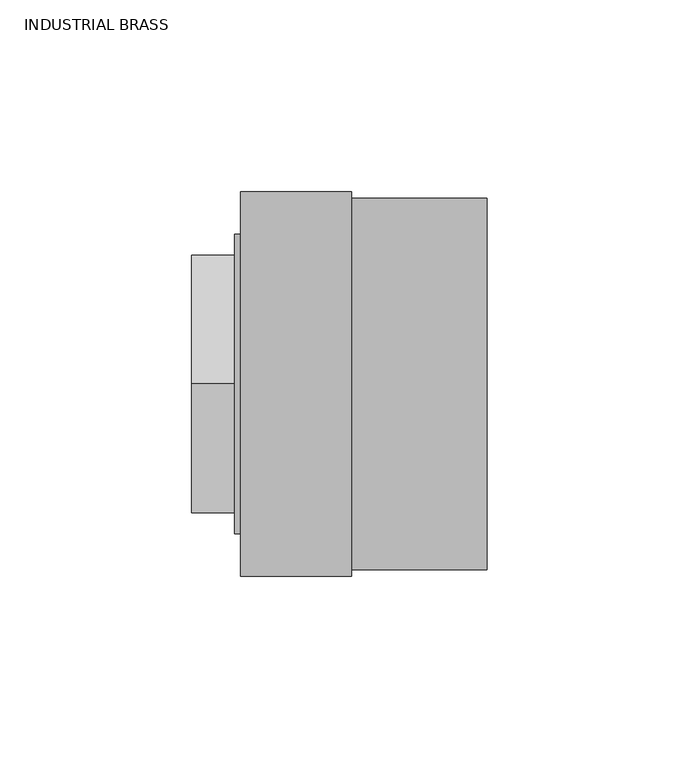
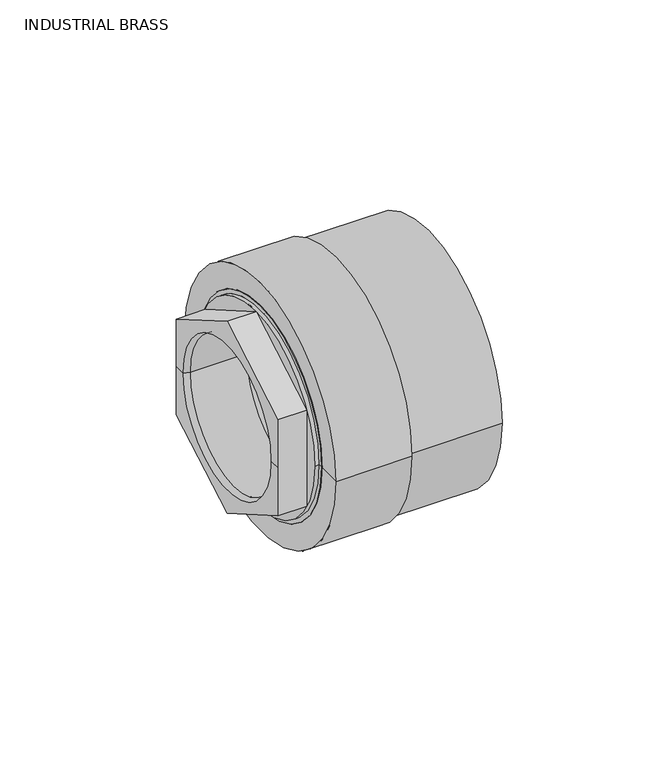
"""IFC4 building model written with IfcOpenShell, lengths in millimetres: valve geometry, Aquatherm - Transition Piece - F HEX : INDUSTRIAL BRASS."""

import ifcopenshell
import ifcopenshell.guid

model = None  # the IFC model being written
_history = None  # IfcOwnerHistory: only IFC2X3 demands one
_inside = {}  # id of a spatial element -> (the spatial element, [elements in it])
_under = {}  # id of a project, library or spatial element -> (it, [spatial elements below it])
_declared = {}  # id of a project -> (the project, [libraries it declares])
_typed = {}  # id of a type object -> (the type object, [elements of that type])
_made_of = {}  # id of a material, layer set ... -> (it, [elements and type objects made of it])


def new_model(schema):
    """Start an empty IFC model of exactly this schema.

    Asked for "IFC4X3", IfcOpenShell would pick the latest addendum, in which some entities
    have other attributes; the version numbers below select the first issue.
    IFC2X3 requires an IfcOwnerHistory on every rooted entity: one is made here for all.
    """
    global model, _history
    if schema == "IFC4X3":
        model = ifcopenshell.file(schema_version=(4, 3, 0, 0))
    else:
        model = ifcopenshell.file(schema=schema)
    _inside.clear()
    _under.clear()
    _declared.clear()
    _typed.clear()
    _made_of.clear()
    _history = None
    if model.schema == "IFC2X3":
        org = make("IfcOrganization", Name="unknown")
        user = make(
            "IfcPersonAndOrganization",
            ThePerson=make("IfcPerson", FamilyName="unknown"),
            TheOrganization=org,
        )
        app = make(
            "IfcApplication",
            ApplicationDeveloper=org,
            Version="unknown",
            ApplicationFullName="unknown",
            ApplicationIdentifier="unknown",
        )
        _history = make(
            "IfcOwnerHistory",
            OwningUser=user,
            OwningApplication=app,
            ChangeAction="ADDED",
            CreationDate=0,
        )
    return model


def make(cls, **values):
    """One entity of the class cls with the attributes given. An attribute that is None is left unset."""
    return model.create_entity(
        cls, **{name: value for name, value in values.items() if value is not None}
    )


def rooted(cls, **values):
    """An entity with a GlobalId (a new one), such as an element, a storey or a relation."""
    return make(cls, GlobalId=ifcopenshell.guid.new(), OwnerHistory=_history, **values)


def si_unit(unit_type, name, prefix=None):
    """IfcSIUnit, for example si_unit("LENGTHUNIT", "METRE", prefix="MILLI")."""
    return make("IfcSIUnit", UnitType=unit_type, Prefix=prefix, Name=name)


def assignment(units):
    """IfcUnitAssignment: the units of a project."""
    return None if units is None else make("IfcUnitAssignment", Units=units)


def point(xyz):
    """IfcCartesianPoint."""
    return None if xyz is None else make("IfcCartesianPoint", Coordinates=xyz)


def direction(xyz):
    """IfcDirection."""
    return None if xyz is None else make("IfcDirection", DirectionRatios=xyz)


def frame(location, z_axis=None, x_axis=None):
    """IfcAxis2Placement3D, a coordinate frame: its origin and axes. An axis left out is left unset."""
    return make(
        "IfcAxis2Placement3D",
        Location=point(location),
        Axis=direction(z_axis),
        RefDirection=direction(x_axis),
    )


def origin():
    """The frame at (0, 0, 0) with its axes left unset."""
    return frame((0.0, 0.0, 0.0))


def place(relative_to, where):
    """IfcLocalPlacement: puts the frame where relative to a parent placement (None: the world)."""
    return make(
        "IfcLocalPlacement", PlacementRelTo=relative_to, RelativePlacement=where
    )


def context(
    kind, dimensions, precision=None, world=None, true_north=None, identifier=None
):
    """IfcGeometricRepresentationContext, for example the 3D "Model" context."""
    return make(
        "IfcGeometricRepresentationContext",
        ContextIdentifier=identifier,
        ContextType=kind,
        CoordinateSpaceDimension=dimensions,
        Precision=precision,
        WorldCoordinateSystem=world,
        TrueNorth=true_north,
    )


def project(units=None, contexts=None):
    """IfcProject with its units and contexts."""
    return rooted(
        "IfcProject",
        Name="project",
        RepresentationContexts=contexts,
        UnitsInContext=assignment(units),
    )


def spatial(cls, under=None, at=None, **own):
    """A site, building, storey or space (cls), placed at a placement, below another one or the project."""
    s = rooted(cls, ObjectPlacement=at, **own)
    if under is not None:
        _under.setdefault(under.id(), (under, []))[1].append(s)
    return s


def polyline(points):
    """IfcPolyline through the points."""
    return make("IfcPolyline", Points=[point(p) for p in points])


def circle_curve(where, radius):
    """IfcCircle in the frame where."""
    return make("IfcCircle", Position=where, Radius=radius)


def shape(context_of_items, identifier, shape_type, items):
    """IfcShapeRepresentation: the items that make up one representation, for example the "Body"."""
    return make(
        "IfcShapeRepresentation",
        ContextOfItems=context_of_items,
        RepresentationIdentifier=identifier,
        RepresentationType=shape_type,
        Items=items,
    )


def source(mapping_origin, context_of_items, identifier, shape_type, items):
    """IfcRepresentationMap: a shape defined once, which mapped items show again and again."""
    return make(
        "IfcRepresentationMap",
        MappingOrigin=mapping_origin,
        MappedRepresentation=shape(context_of_items, identifier, shape_type, items),
    )


def transform(
    local_origin,
    x_axis=None,
    y_axis=None,
    z_axis=None,
    scale=None,
    scale2=None,
    scale3=None,
    uniform=True,
):
    """IfcCartesianTransformationOperator3D, or its non-uniform kind. x_axis, y_axis, z_axis: its Axis1, 2, 3."""
    if uniform:
        return make(
            "IfcCartesianTransformationOperator3D",
            Axis1=direction(x_axis),
            Axis2=direction(y_axis),
            LocalOrigin=point(local_origin),
            Scale=scale,
            Axis3=direction(z_axis),
        )
    return make(
        "IfcCartesianTransformationOperator3DnonUniform",
        Axis1=direction(x_axis),
        Axis2=direction(y_axis),
        LocalOrigin=point(local_origin),
        Scale=scale,
        Axis3=direction(z_axis),
        Scale2=scale2,
        Scale3=scale3,
    )


def mapped(mapping_source, mapping_target):
    """IfcMappedItem: shows the shape of a source again, moved by a transform."""
    return make(
        "IfcMappedItem", MappingSource=mapping_source, MappingTarget=mapping_target
    )


def made_of(thing, what):
    """Note that an element or type object is made of a material, layer set ...; save() writes the relation."""
    if what is not None:
        _made_of.setdefault(what.id(), (what, []))[1].append(thing)
    return thing


def element(
    cls,
    number,
    at=None,
    inside=None,
    cuts=None,
    type_object=None,
    material=None,
    context=None,
    identifier="Body",
    shape_type=None,
    held_by="IfcProductDefinitionShape",
    body=None,
    shapes=None,
    **own,
):
    """One element of the class cls, such as IfcWall. Its Tag is "e" and its number.

    at: its placement. inside: the storey or other place that contains it. cuts: it is an
    opening in that element (IfcRelVoidsElement). A single representation is given by context,
    identifier, shape_type and body (its items); several are given by shapes. held_by: the class
    of the entity that holds the representations. save() writes the other relations.
    """
    e = rooted(cls, Tag="e%d" % number, ObjectPlacement=at, **own)
    if body is not None:
        shapes = [shape(context, identifier, shape_type, body)]
    if shapes is not None:
        e.Representation = make(held_by, Representations=shapes)
    if inside is not None:
        _inside.setdefault(inside.id(), (inside, []))[1].append(e)
    if cuts is not None:
        rooted(
            "IfcRelVoidsElement", RelatingBuildingElement=cuts, RelatedOpeningElement=e
        )
    if type_object is not None:
        _typed.setdefault(type_object.id(), (type_object, []))[1].append(e)
    return made_of(e, material)


def aggregate(whole, parts):
    """IfcRelAggregates: a whole, such as a stair, and the parts it consists of."""
    return rooted("IfcRelAggregates", RelatingObject=whole, RelatedObjects=parts)


def save(model, path):
    """Write the relations noted so far, then the file.

    IfcRelAggregates (storeys below a building ...), IfcRelContainedInSpatialStructure (elements
    in a storey), IfcRelDefinesByType, IfcRelAssociatesMaterial and IfcRelDeclares: one each for
    every whole, place, type object, material and project.
    """
    for whole, parts in _under.values():
        aggregate(whole, parts)
    for where, things in _inside.values():
        rooted(
            "IfcRelContainedInSpatialStructure",
            RelatedElements=things,
            RelatingStructure=where,
        )
    for kind, things in _typed.values():
        rooted("IfcRelDefinesByType", RelatedObjects=things, RelatingType=kind)
    for what, things in _made_of.values():
        rooted("IfcRelAssociatesMaterial", RelatedObjects=things, RelatingMaterial=what)
    for by, libraries in _declared.values():
        rooted("IfcRelDeclares", RelatingContext=by, RelatedDefinitions=libraries)
    model.write(path)


def plane_surface(at):
    """IfcPlane: the flat surface through the origin of the frame at, square to its z axis."""
    return make("IfcPlane", Position=at)


def cylinder_surface(at, radius):
    """IfcCylindricalSurface: all points at the distance radius from the z axis of the frame at."""
    return make("IfcCylindricalSurface", Position=at, Radius=radius)


def revolved_surface(curve, axis_point, axis_direction):
    """IfcSurfaceOfRevolution: the curve turned about the line through axis_point along axis_direction."""
    return make(
        "IfcSurfaceOfRevolution",
        SweptCurve=make("IfcArbitraryOpenProfileDef", ProfileType="CURVE", Curve=curve),
        AxisPosition=make("IfcAxis1Placement", Location=point(axis_point), Axis=direction(axis_direction)),
    )


def advanced_brep(points, edges, surfaces, faces):
    """IfcAdvancedBrep: a solid bounded by faces that lie on surfaces and meet in shared edges.

    An edge is (start, end): straight between two places in points (the first is 0);
    or (start, end, curve); or (start, end, curve, False) where it runs against its curve.
    A face is (place in surfaces, loops), or (place, loops, False) where it looks against
    its surface's normal. A loop lists edges by number (the first is 1), with a minus sign
    where the edge is run from its end to its start. The first loop is the outer one.
    """
    corners = [point(p) for p in points]
    vertices = [make("IfcVertexPoint", VertexGeometry=c) for c in corners]
    made = []
    for start, end, *more in edges:
        made.append(
            make(
                "IfcEdgeCurve",
                EdgeStart=vertices[start],
                EdgeEnd=vertices[end],
                EdgeGeometry=more[0] if more else make("IfcPolyline", Points=[corners[start], corners[end]]),
                SameSense=more[1] if len(more) > 1 else True,
            )
        )
    hull = []
    for where, loops, *sense in faces:
        bounds = []
        for j, loop in enumerate(loops):
            ring = [make("IfcOrientedEdge", EdgeElement=made[abs(k) - 1], Orientation=k > 0) for k in loop]
            bounds.append(
                make(
                    "IfcFaceOuterBound" if j == 0 else "IfcFaceBound",
                    Bound=make("IfcEdgeLoop", EdgeList=ring),
                    Orientation=True,
                )
            )
        hull.append(make("IfcAdvancedFace", Bounds=bounds, FaceSurface=surfaces[where], SameSense=sense[0] if sense else True))
    return make("IfcAdvancedBrep", Outer=make("IfcClosedShell", CfsFaces=hull))


def industrial_brass_6267ebcc(model_context):
    return source(origin(), model_context, "Body", "AdvancedBrep", [
        advanced_brep(
        [(11.1125, -28.575, 0.0), (11.1125, 28.575, 0.0), (-10.1203125, 28.575, 0.0), (-10.1203125, -28.575, 0.0), (11.1125, -29.36875, 0.0), (11.1125, 29.36875, 0.0), (14.2875, -29.36875, 0.0), (14.2875, 29.36875, 0.0), (14.2875, -25.4, 0.0), (14.2875, 25.4, 0.0), (17.4625, -25.4, 0.0), (17.4625, 25.4, 0.0), (17.4625, -40.64, 0.0), (17.4625, 40.64, 0.0), (0.0, -40.64, 0.0), (0.0, 40.64, 0.0), (-12.7, -29.36875, 0.0), (-12.7, 29.36875, 0.0), (-12.7, 33.528, 0.0), (-12.7, 33.528, -19.3573998), (-12.7, 0.0, -38.7147997), (-12.7, -33.528, -19.3573998), (-12.7, -33.528, 0.0), (-12.7, -33.528, 19.3573998), (-12.7, 0.0, 38.7147997), (-12.7, 33.528, 19.3573998), (0.0, -38.989, 0.0), (0.0, 38.989, 0.0), (-1.5875, -38.989, 0.0), (-1.5875, 38.989, 0.0), (-1.5875, 0.0, -38.7147997), (-1.5875, 33.528, -19.3573998), (-1.5875, 33.528, 19.3573998), (-1.5875, 0.0, 38.7147997), (-1.5875, -33.528, 19.3573998), (-1.5875, -33.528, -19.3573998)],
        [
            (0, 1, circle_curve(frame((11.1125, 0.0, 0.0), z_axis=(1.0, 0.0, 0.0), x_axis=(0.0, 1.0, 0.0)), 28.575)),
            (1, 2),
            (2, 3, circle_curve(frame((-10.1203125, 0.0, 0.0), z_axis=(-1.0, 0.0, 0.0), x_axis=(0.0, 1.0, 0.0)), 28.575)),
            (3, 0),
            (1, 0, circle_curve(frame((11.1125, 0.0, 0.0), z_axis=(1.0, 0.0, 0.0), x_axis=(0.0, 1.0, 0.0)), 28.575)),
            (3, 2, circle_curve(frame((-10.1203125, 0.0, 0.0), z_axis=(-1.0, 0.0, 0.0), x_axis=(0.0, 1.0, 0.0)), 28.575)),
            (0, 4),
            (4, 5, circle_curve(frame((11.1125, 0.0, 0.0), z_axis=(1.0, 0.0, 0.0), x_axis=(0.0, 1.0, 0.0)), 29.36875)),
            (5, 1),
            (5, 4, circle_curve(frame((11.1125, 0.0, 0.0), z_axis=(1.0, 0.0, 0.0), x_axis=(0.0, 1.0, 0.0)), 29.36875)),
            (4, 6),
            (6, 7, circle_curve(frame((14.2875, 0.0, 0.0), z_axis=(1.0, 0.0, 0.0), x_axis=(0.0, 1.0, 0.0)), 29.36875)),
            (7, 5),
            (7, 6, circle_curve(frame((14.2875, 0.0, 0.0), z_axis=(1.0, 0.0, 0.0), x_axis=(0.0, 1.0, 0.0)), 29.36875)),
            (6, 8),
            (8, 9, circle_curve(frame((14.2875, 0.0, 0.0), z_axis=(1.0, 0.0, 0.0), x_axis=(0.0, 1.0, 0.0)), 25.4)),
            (9, 7),
            (9, 8, circle_curve(frame((14.2875, 0.0, 0.0), z_axis=(1.0, 0.0, 0.0), x_axis=(0.0, 1.0, 0.0)), 25.4)),
            (8, 10),
            (10, 11, circle_curve(frame((17.4625, 0.0, 0.0), z_axis=(1.0, 0.0, 0.0), x_axis=(0.0, 1.0, 0.0)), 25.4)),
            (11, 9),
            (11, 10, circle_curve(frame((17.4625, 0.0, 0.0), z_axis=(1.0, 0.0, 0.0), x_axis=(0.0, 1.0, 0.0)), 25.4)),
            (10, 12),
            (12, 13, circle_curve(frame((17.4625, 0.0, 0.0), z_axis=(1.0, 0.0, 0.0), x_axis=(0.0, 1.0, 0.0)), 40.64)),
            (13, 11),
            (13, 12, circle_curve(frame((17.4625, 0.0, 0.0), z_axis=(1.0, 0.0, 0.0), x_axis=(0.0, 1.0, 0.0)), 40.64)),
            (12, 14),
            (14, 15, circle_curve(frame((0.0, 0.0, 0.0), z_axis=(1.0, 0.0, 0.0), x_axis=(0.0, 1.0, 0.0)), 40.64)),
            (15, 13),
            (15, 14, circle_curve(frame((0.0, 0.0, 0.0), z_axis=(1.0, 0.0, 0.0), x_axis=(0.0, 1.0, 0.0)), 40.64)),
            (16, 17, circle_curve(frame((-12.7, 0.0, 0.0), z_axis=(1.0, 0.0, 0.0), x_axis=(0.0, 1.0, 0.0)), 29.36875)),
            (17, 18),
            (18, 19),
            (19, 20),
            (20, 21),
            (21, 22),
            (22, 16),
            (17, 16, circle_curve(frame((-12.7, 0.0, 0.0), z_axis=(1.0, 0.0, 0.0), x_axis=(0.0, 1.0, 0.0)), 29.36875)),
            (22, 23),
            (23, 24),
            (24, 25),
            (25, 18),
            (2, 17),
            (16, 3),
            (14, 26),
            (26, 27, circle_curve(frame((0.0, 0.0, 0.0), z_axis=(1.0, 0.0, 0.0), x_axis=(0.0, 1.0, 0.0)), 38.989)),
            (27, 15),
            (27, 26, circle_curve(frame((0.0, 0.0, 0.0), z_axis=(1.0, 0.0, 0.0), x_axis=(0.0, 1.0, 0.0)), 38.989)),
            (26, 28),
            (28, 29, circle_curve(frame((-1.5875, 0.0, 0.0), z_axis=(1.0, 0.0, 0.0), x_axis=(0.0, 1.0, 0.0)), 38.989)),
            (29, 27),
            (29, 28, circle_curve(frame((-1.5875, 0.0, 0.0), z_axis=(1.0, 0.0, 0.0), x_axis=(0.0, 1.0, 0.0)), 38.989)),
            (30, 31),
            (31, 32),
            (32, 33),
            (33, 34),
            (34, 35),
            (35, 30),
            (35, 21),
            (20, 30),
            (34, 23),
            (33, 24),
            (32, 25),
            (31, 19),
        ],
        [
            revolved_surface(polyline([(-10.1203125, 28.575, 0.0), (11.1125, 28.575, 0.0)]), (-14.5332251, 0.0, 0.0), (-1.0, 0.0, 0.0)),
            plane_surface(frame((11.1125, 0.0, 0.0), z_axis=(1.0, 0.0, 0.0), x_axis=(0.0, 1.0, 0.0))),
            revolved_surface(polyline([(11.1125, 29.36875, 0.0), (14.287499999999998, 29.36875, 0.0)]), (-14.5332251, 0.0, 0.0), (-1.0, 0.0, 0.0)),
            plane_surface(frame((14.2875, 0.0, 0.0), z_axis=(-1.0, 0.0, 0.0), x_axis=(0.0, 1.0, 0.0))),
            revolved_surface(polyline([(14.287499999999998, 25.4, 0.0), (17.4625, 25.4, 0.0)]), (-14.5332251, 0.0, 0.0), (-1.0, 0.0, 0.0)),
            plane_surface(frame((17.4625, 0.0, 0.0), z_axis=(1.0, 0.0, 0.0), x_axis=(0.0, 1.0, 0.0))),
            cylinder_surface(frame((-14.5332251, 0.0, 0.0), z_axis=(-1.0, 0.0, 0.0), x_axis=(0.0, 1.0, 0.0)), 40.64),
            plane_surface(frame((-12.7, 0.0, 0.0), z_axis=(-1.0, 0.0, 0.0), x_axis=(0.0, 1.0, 0.0))),
            revolved_surface(polyline([(-12.7, 29.36875, 0.0), (-10.1203125, 28.575, 0.0)]), (-14.5332251, 0.0, 0.0), (-1.0, 0.0, 0.0)),
            plane_surface(frame((0.0, 0.0, 0.0), z_axis=(-1.0, 0.0, 0.0), x_axis=(0.0, 1.0, 0.0))),
            cylinder_surface(frame((-14.5332251, 0.0, 0.0), z_axis=(-1.0, 0.0, 0.0), x_axis=(0.0, 1.0, 0.0)), 38.989),
            plane_surface(frame((-1.5875, -33.528, -19.3573998), z_axis=(-1.0, 0.0, 0.0), x_axis=(0.0, -0.8660254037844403, 0.49999999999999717))),
            plane_surface(frame((-1.5875, 0.0, -38.7147997), z_axis=(0.0, -0.49999999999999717, -0.8660254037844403), x_axis=(-1.0, 0.0, 0.0))),
            plane_surface(frame((-1.5875, -33.528, -19.3573998), z_axis=(0.0, -1.0, 0.0), x_axis=(-1.0, 0.0, 0.0))),
            plane_surface(frame((-1.5875, -33.528, 19.3573998), z_axis=(0.0, -0.5000000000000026, 0.8660254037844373), x_axis=(-1.0, 0.0, 0.0))),
            plane_surface(frame((-1.5875, 0.0, 38.7147997), z_axis=(0.0, 0.4999999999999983, 0.8660254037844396), x_axis=(-1.0, 0.0, 0.0))),
            plane_surface(frame((-1.5875, 33.528, 19.3573998), z_axis=(0.0, 1.0, 0.0), x_axis=(-1.0, 0.0, 0.0))),
            plane_surface(frame((-1.5875, 33.528, -19.3573998), z_axis=(0.0, 0.5000000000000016, -0.8660254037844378), x_axis=(-1.0, 0.0, 0.0))),
        ],
        [
            (0, [[1, 2, 3, 4]]),
            (0, [[-2, 5, -4, 6]]),
            (1, [[-1, 7, 8, 9]]),
            (1, [[-5, -9, 10, -7]]),
            (2, [[-8, 11, 12, 13]]),
            (2, [[-10, -13, 14, -11]]),
            (3, [[-12, 15, 16, 17]]),
            (3, [[-14, -17, 18, -15]]),
            (4, [[-16, 19, 20, 21]]),
            (4, [[-18, -21, 22, -19]]),
            (5, [[-20, 23, 24, 25]]),
            (5, [[-22, -25, 26, -23]]),
            (6, [[-24, 27, 28, 29]]),
            (6, [[-26, -29, 30, -27]]),
            (7, [[31, 32, 33, 34, 35, 36, 37]]),
            (7, [[38, -37, 39, 40, 41, 42, -32]]),
            (8, [[-3, 43, -31, 44]]),
            (8, [[-6, -44, -38, -43]]),
            (9, [[-28, 45, 46, 47]]),
            (9, [[-30, -47, 48, -45]]),
            (10, [[-46, 49, 50, 51]]),
            (10, [[-48, -51, 52, -49]]),
            (11, [[-50, -52], [53, 54, 55, 56, 57, 58]]),
            (12, [[-58, 59, -35, 60]]),
            (13, [[-57, 61, -39, -36, -59]]),
            (14, [[-56, 62, -40, -61]]),
            (15, [[-55, 63, -41, -62]]),
            (16, [[-54, 64, -33, -42, -63]]),
            (17, [[-53, -60, -34, -64]]),
        ],
    ),
        advanced_brep(
        [(0.0, -50.038, 0.0), (0.0, 50.038, 0.0), (28.956, 50.038, 0.0), (28.956, -50.038, 0.0), (0.0, -40.64, 0.0), (0.0, 40.64, 0.0), (17.4625, -40.64, 0.0), (17.4625, 40.64, 0.0), (17.4625, -25.4, 0.0), (17.4625, 25.4, 0.0), (34.29, -25.4, 0.0), (34.29, 25.4, 0.0), (34.29, -37.465, 0.0), (34.29, 37.465, 0.0), (64.262, -37.465, 0.0), (64.262, 37.465, 0.0), (64.262, -48.4505, 0.0), (64.262, 48.4505, 0.0), (28.956, -48.4505, 0.0), (28.956, 48.4505, 0.0)],
        [
            (0, 1, circle_curve(frame((0.0, 0.0, 0.0), z_axis=(1.0, 0.0, 0.0), x_axis=(0.0, 1.0, 0.0)), 50.038)),
            (1, 2),
            (2, 3, circle_curve(frame((28.956, 0.0, 0.0), z_axis=(-1.0, 0.0, 0.0), x_axis=(0.0, 1.0, 0.0)), 50.038)),
            (3, 0),
            (1, 0, circle_curve(frame((0.0, 0.0, 0.0), z_axis=(1.0, 0.0, 0.0), x_axis=(0.0, 1.0, 0.0)), 50.038)),
            (3, 2, circle_curve(frame((28.956, 0.0, 0.0), z_axis=(-1.0, 0.0, 0.0), x_axis=(0.0, 1.0, 0.0)), 50.038)),
            (4, 5, circle_curve(frame((0.0, 0.0, 0.0), z_axis=(1.0, 0.0, 0.0), x_axis=(0.0, 1.0, 0.0)), 40.64)),
            (5, 1),
            (0, 4),
            (5, 4, circle_curve(frame((0.0, 0.0, 0.0), z_axis=(1.0, 0.0, 0.0), x_axis=(0.0, 1.0, 0.0)), 40.64)),
            (6, 7, circle_curve(frame((17.4625, 0.0, 0.0), z_axis=(1.0, 0.0, 0.0), x_axis=(0.0, 1.0, 0.0)), 40.64)),
            (7, 5),
            (4, 6),
            (7, 6, circle_curve(frame((17.4625, 0.0, 0.0), z_axis=(1.0, 0.0, 0.0), x_axis=(0.0, 1.0, 0.0)), 40.64)),
            (8, 9, circle_curve(frame((17.4625, 0.0, 0.0), z_axis=(1.0, 0.0, 0.0), x_axis=(0.0, 1.0, 0.0)), 25.4)),
            (9, 7),
            (6, 8),
            (9, 8, circle_curve(frame((17.4625, 0.0, 0.0), z_axis=(1.0, 0.0, 0.0), x_axis=(0.0, 1.0, 0.0)), 25.4)),
            (10, 11, circle_curve(frame((34.29, 0.0, 0.0), z_axis=(1.0, 0.0, 0.0), x_axis=(0.0, 1.0, 0.0)), 25.4)),
            (11, 9),
            (8, 10),
            (11, 10, circle_curve(frame((34.29, 0.0, 0.0), z_axis=(1.0, 0.0, 0.0), x_axis=(0.0, 1.0, 0.0)), 25.4)),
            (12, 13, circle_curve(frame((34.29, 0.0, 0.0), z_axis=(1.0, 0.0, 0.0), x_axis=(0.0, 1.0, 0.0)), 37.465)),
            (13, 11),
            (10, 12),
            (13, 12, circle_curve(frame((34.29, 0.0, 0.0), z_axis=(1.0, 0.0, 0.0), x_axis=(0.0, 1.0, 0.0)), 37.465)),
            (14, 15, circle_curve(frame((64.262, 0.0, 0.0), z_axis=(1.0, 0.0, 0.0), x_axis=(0.0, 1.0, 0.0)), 37.465)),
            (15, 13),
            (12, 14),
            (15, 14, circle_curve(frame((64.262, 0.0, 0.0), z_axis=(1.0, 0.0, 0.0), x_axis=(0.0, 1.0, 0.0)), 37.465)),
            (16, 17, circle_curve(frame((64.262, 0.0, 0.0), z_axis=(1.0, 0.0, 0.0), x_axis=(0.0, 1.0, 0.0)), 48.4505)),
            (17, 15),
            (14, 16),
            (17, 16, circle_curve(frame((64.262, 0.0, 0.0), z_axis=(1.0, 0.0, 0.0), x_axis=(0.0, 1.0, 0.0)), 48.4505)),
            (18, 19, circle_curve(frame((28.956, 0.0, 0.0), z_axis=(1.0, 0.0, 0.0), x_axis=(0.0, 1.0, 0.0)), 48.4505)),
            (19, 17),
            (16, 18),
            (19, 18, circle_curve(frame((28.956, 0.0, 0.0), z_axis=(1.0, 0.0, 0.0), x_axis=(0.0, 1.0, 0.0)), 48.4505)),
            (2, 19),
            (18, 3),
        ],
        [
            cylinder_surface(frame((-20.8031162, 0.0, 0.0), z_axis=(-1.0, 0.0, 0.0), x_axis=(0.0, 1.0, 0.0)), 50.038),
            plane_surface(frame((0.0, 0.0, 0.0), z_axis=(-1.0, 0.0, 0.0), x_axis=(0.0, 1.0, 0.0))),
            revolved_surface(polyline([(0.0, 40.64, 0.0), (17.462499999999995, 40.64, 0.0)]), (-20.8031162, 0.0, 0.0), (-1.0, 0.0, 0.0)),
            plane_surface(frame((17.4625, 0.0, 0.0), z_axis=(-1.0, 0.0, 0.0), x_axis=(0.0, 1.0, 0.0))),
            revolved_surface(polyline([(17.462499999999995, 25.4, 0.0), (34.28999999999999, 25.4, 0.0)]), (-20.8031162, 0.0, 0.0), (-1.0, 0.0, 0.0)),
            plane_surface(frame((34.29, 0.0, 0.0), z_axis=(1.0, 0.0, 0.0), x_axis=(0.0, 1.0, 0.0))),
            revolved_surface(polyline([(34.28999999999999, 37.465, 0.0), (64.262, 37.465, 0.0)]), (-20.8031162, 0.0, 0.0), (-1.0, 0.0, 0.0)),
            plane_surface(frame((64.262, 0.0, 0.0), z_axis=(1.0, 0.0, 0.0), x_axis=(0.0, 1.0, 0.0))),
            cylinder_surface(frame((-20.8031162, 0.0, 0.0), z_axis=(-1.0, 0.0, 0.0), x_axis=(0.0, 1.0, 0.0)), 48.4505),
            plane_surface(frame((28.956, 0.0, 0.0), z_axis=(1.0, 0.0, 0.0), x_axis=(0.0, 1.0, 0.0))),
        ],
        [
            (0, [[1, 2, 3, 4]]),
            (0, [[5, -4, 6, -2]]),
            (1, [[7, 8, -1, 9]]),
            (1, [[10, -9, -5, -8]]),
            (2, [[11, 12, -7, 13]]),
            (2, [[14, -13, -10, -12]]),
            (3, [[15, 16, -11, 17]]),
            (3, [[18, -17, -14, -16]]),
            (4, [[19, 20, -15, 21]]),
            (4, [[22, -21, -18, -20]]),
            (5, [[23, 24, -19, 25]]),
            (5, [[26, -25, -22, -24]]),
            (6, [[27, 28, -23, 29]]),
            (6, [[30, -29, -26, -28]]),
            (7, [[31, 32, -27, 33]]),
            (7, [[34, -33, -30, -32]]),
            (8, [[35, 36, -31, 37]]),
            (8, [[38, -37, -34, -36]]),
            (9, [[-3, 39, -35, 40]]),
            (9, [[-6, -40, -38, -39]]),
        ],
    ),
    ])


if __name__ == "__main__":
    model = new_model("IFC4")
    model_context = context("Model", 3, world=origin())
    ifc_project = project(units=[si_unit("LENGTHUNIT", "METRE", prefix="MILLI")], contexts=[model_context])
    site = spatial("IfcSite", under=ifc_project)
    building = spatial("IfcBuilding", under=site)
    placement = place(None, origin())
    industrial_brass_shape = industrial_brass_6267ebcc(model_context)
    element("IfcValve", 1, ObjectType="Aquatherm - Transition Piece - F HEX : INDUSTRIAL BRASS", at=placement, inside=building, context=model_context, shape_type="MappedRepresentation", body=[
        mapped(industrial_brass_shape, transform((0.0, 0.0, 0.0), x_axis=(1.0, 0.0, 0.0), y_axis=(0.0, 1.0, 0.0), z_axis=(0.0, 0.0, 1.0))),
    ])
    save(model, "model.ifc")
